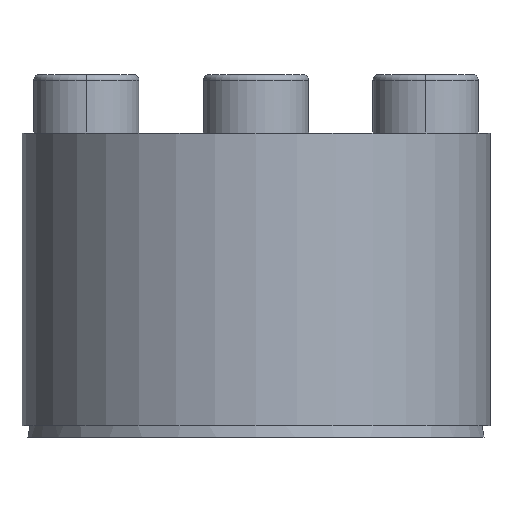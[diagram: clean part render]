
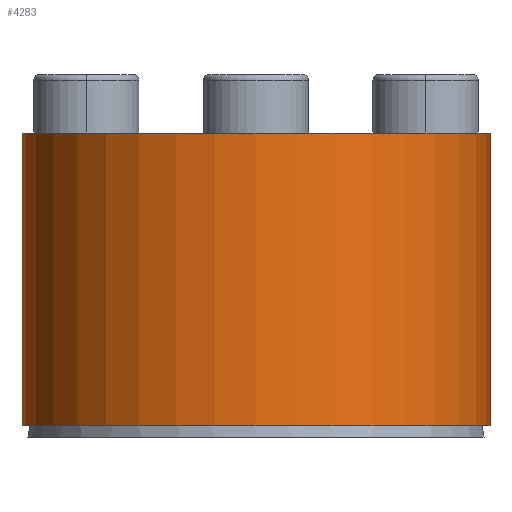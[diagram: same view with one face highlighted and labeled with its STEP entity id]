
A CAD part, front view. The second image highlights one B-rep face of the part: STEP entity #4283.
In plain terms, the highlighted cylindrical face has radius 10 mm (diameter 20 mm), a partial arc.
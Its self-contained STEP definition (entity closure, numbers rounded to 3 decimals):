
#82 = EDGE_LOOP ( 'NONE', ( #2267, #547, #4879, #2746 ) ) ;
#131 = DIRECTION ( 'NONE',  ( -1., 0., 0. ) ) ;
#547 = ORIENTED_EDGE ( 'NONE', *, *, #2709, .F. ) ;
#689 = FACE_OUTER_BOUND ( 'NONE', #82, .T. ) ;
#779 = VECTOR ( 'NONE', #5772, 1000. ) ;
#1416 = VERTEX_POINT ( 'NONE', #3068 ) ;
#1638 = CARTESIAN_POINT ( 'NONE',  ( -10., 0., 0.512 ) ) ;
#1762 = CARTESIAN_POINT ( 'NONE',  ( 10., 0., 0.512 ) ) ;
#2076 = EDGE_CURVE ( 'NONE', #1416, #3860, #7153, .T. ) ;
#2267 = ORIENTED_EDGE ( 'NONE', *, *, #4469, .F. ) ;
#2274 = LINE ( 'NONE', #3582, #779 ) ;
#2584 = EDGE_CURVE ( 'NONE', #2682, #1416, #6481, .T. ) ;
#2682 = VERTEX_POINT ( 'NONE', #1762 ) ;
#2709 = EDGE_CURVE ( 'NONE', #2682, #6443, #5370, .T. ) ;
#2746 = ORIENTED_EDGE ( 'NONE', *, *, #2076, .T. ) ;
#2801 = CARTESIAN_POINT ( 'NONE',  ( 0., 0., 13.012 ) ) ;
#3068 = CARTESIAN_POINT ( 'NONE',  ( 10., 0., 13.012 ) ) ;
#3152 = CARTESIAN_POINT ( 'NONE',  ( 0., 0., 0.512 ) ) ;
#3305 = DIRECTION ( 'NONE',  ( 0., 0., 1. ) ) ;
#3387 = DIRECTION ( 'NONE',  ( -1., 0., 0. ) ) ;
#3470 = DIRECTION ( 'NONE',  ( 0., 0., -1. ) ) ;
#3582 = CARTESIAN_POINT ( 'NONE',  ( -10., 0., 0.512 ) ) ;
#3860 = VERTEX_POINT ( 'NONE', #5360 ) ;
#4283 = ADVANCED_FACE ( 'NONE', ( #689 ), #4419, .T. ) ;
#4419 = CYLINDRICAL_SURFACE ( 'NONE', #4577, 10. ) ;
#4469 = EDGE_CURVE ( 'NONE', #6443, #3860, #2274, .T. ) ;
#4577 = AXIS2_PLACEMENT_3D ( 'NONE', #3152, #5352, #6096 ) ;
#4879 = ORIENTED_EDGE ( 'NONE', *, *, #2584, .T. ) ;
#5018 = VECTOR ( 'NONE', #3305, 1000. ) ;
#5352 = DIRECTION ( 'NONE',  ( 0., 0., 1. ) ) ;
#5360 = CARTESIAN_POINT ( 'NONE',  ( -10., 0., 13.012 ) ) ;
#5370 = CIRCLE ( 'NONE', #6588, 10. ) ;
#5772 = DIRECTION ( 'NONE',  ( 0., 0., 1. ) ) ;
#5799 = AXIS2_PLACEMENT_3D ( 'NONE', #2801, #6666, #3387 ) ;
#6096 = DIRECTION ( 'NONE',  ( 1., 0., 0. ) ) ;
#6443 = VERTEX_POINT ( 'NONE', #1638 ) ;
#6481 = LINE ( 'NONE', #7109, #5018 ) ;
#6588 = AXIS2_PLACEMENT_3D ( 'NONE', #6742, #3470, #131 ) ;
#6666 = DIRECTION ( 'NONE',  ( 0., 0., -1. ) ) ;
#6742 = CARTESIAN_POINT ( 'NONE',  ( 0., 0., 0.512 ) ) ;
#7109 = CARTESIAN_POINT ( 'NONE',  ( 10., 0., 0.512 ) ) ;
#7153 = CIRCLE ( 'NONE', #5799, 10. ) ;
